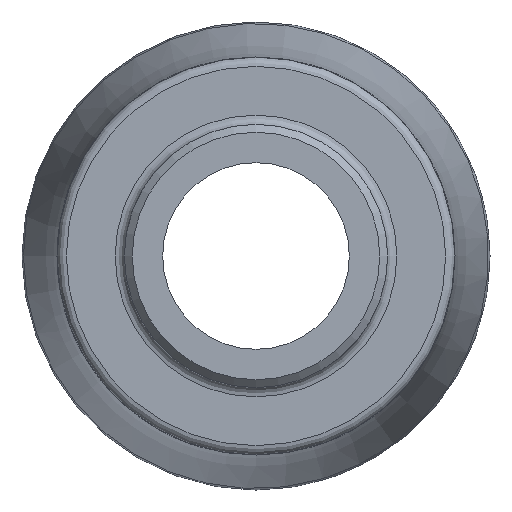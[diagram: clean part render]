
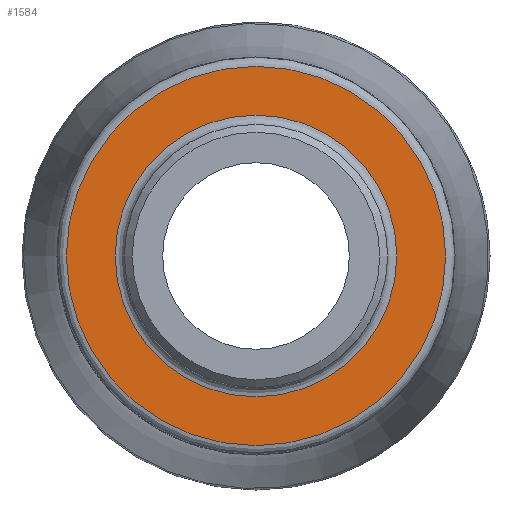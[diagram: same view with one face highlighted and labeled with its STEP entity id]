
A CAD part, left-side view. The second image highlights one B-rep face of the part: STEP entity #1584.
In plain terms, the highlighted planar face has unit normal (-1, 0, 0).
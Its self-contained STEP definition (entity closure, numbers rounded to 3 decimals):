
#262=PLANE('',#1742);
#356=FACE_BOUND('',#504,.T.);
#392=FACE_OUTER_BOUND('',#503,.T.);
#503=EDGE_LOOP('',(#1230));
#504=EDGE_LOOP('',(#1231));
#632=CIRCLE('',#1741,14.146);
#633=CIRCLE('',#1743,19.05);
#742=VERTEX_POINT('',#2837);
#743=VERTEX_POINT('',#2840);
#920=EDGE_CURVE('',#742,#742,#632,.T.);
#921=EDGE_CURVE('',#743,#743,#633,.T.);
#1230=ORIENTED_EDGE('',*,*,#921,.F.);
#1231=ORIENTED_EDGE('',*,*,#920,.F.);
#1584=ADVANCED_FACE('',(#392,#356),#262,.T.);
#1741=AXIS2_PLACEMENT_3D('',#2838,#2035,#2036);
#1742=AXIS2_PLACEMENT_3D('',#2839,#2037,#2038);
#1743=AXIS2_PLACEMENT_3D('',#2841,#2039,#2040);
#2035=DIRECTION('center_axis',(-1.,0.,0.));
#2036=DIRECTION('ref_axis',(0.,-1.,0.));
#2037=DIRECTION('center_axis',(-1.,0.,0.));
#2038=DIRECTION('ref_axis',(0.,0.,1.));
#2039=DIRECTION('center_axis',(1.,0.,0.));
#2040=DIRECTION('ref_axis',(0.,-1.,0.));
#2837=CARTESIAN_POINT('',(17.,14.146,0.));
#2838=CARTESIAN_POINT('Origin',(17.,0.,0.));
#2839=CARTESIAN_POINT('Origin',(17.,19.975,0.));
#2840=CARTESIAN_POINT('',(17.,19.05,0.));
#2841=CARTESIAN_POINT('Origin',(17.,0.,0.));
